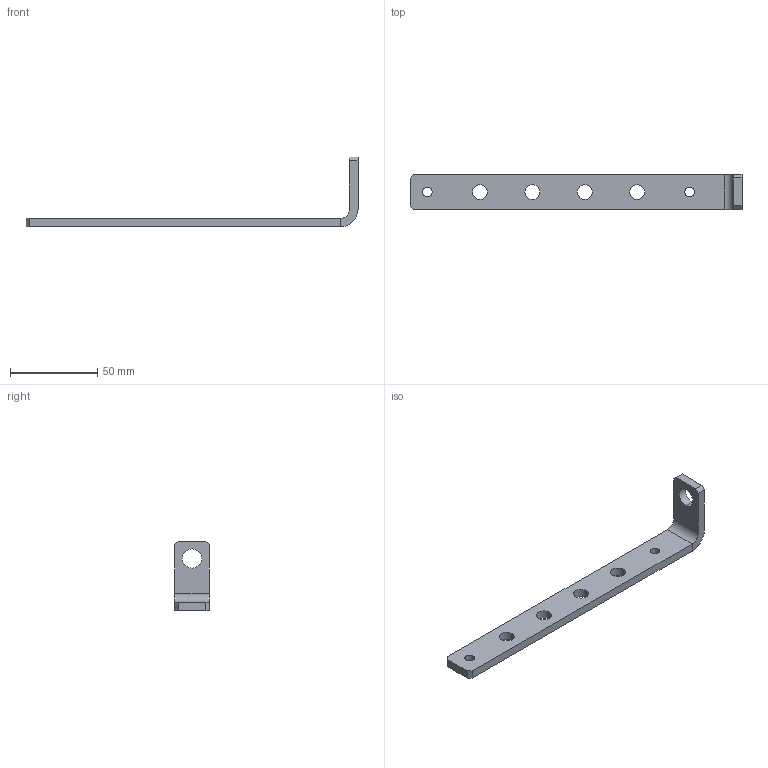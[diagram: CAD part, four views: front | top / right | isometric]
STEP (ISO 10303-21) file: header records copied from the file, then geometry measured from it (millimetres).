
FILE_DESCRIPTION(('CAx-IF Rec.Pracs.---Model Styling and Organization---1.2---2011-12-15','CAx-IF Rec.Pracs.---Geometric and Assembly Validation Properties---4.1---2014-06-16','CAx-IF Rec.Pracs.---PMI Polyline Presentation---2.0---2013-05-24'),'2;1');
FILE_NAME('R5M2WBBEPC2.stp','2021-05-05T11:54:15+03:00',(''),(''),'STEP Interface 4.4 by CT CoreTechnologie','3D_Evolution4.4 by CT CoreTechnologie','');
FILE_SCHEMA(('AUTOMOTIVE_DESIGN { 1 0 10303 214 1 1 1 1 }'));
Length unit declared in the file: millimetre
Products named in the file (2): R5M2WBBEPC2; RB.1770.00.00.0
Assembly tree (1 placements, depth 2):
  R5M2WBBEPC2
    RB.1770.00.00.0
Bounding box: 190 x 20 x 40 mm (x, y, z)
Surface area: 11390.2 mm2 (no closed solid volume)
Topology: 0 solids, 1 shells, 30 faces, 80 edges, 52 vertices
Faces by surface type: cylinder 16, plane 14
Entity records: 1045 total; most frequent: DIRECTION 176, CARTESIAN_POINT 164, ORIENTED_EDGE 160, EDGE_CURVE 80, AXIS2_PLACEMENT_3D 64, VERTEX_POINT 52, VECTOR 48, LINE 48
